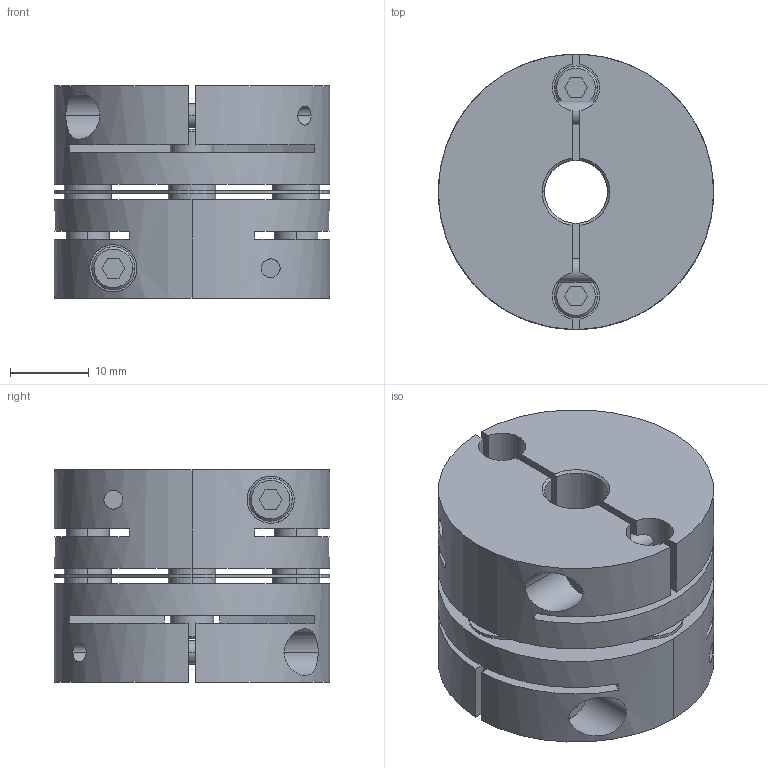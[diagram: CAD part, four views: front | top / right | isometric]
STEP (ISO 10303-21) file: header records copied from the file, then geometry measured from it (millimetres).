
FILE_DESCRIPTION((''),'2;1');
FILE_NAME('LAS-35C-8×9.525.stp','2015-10-14T15:27:03',(''),(''),'AutoCAD STEP 2000i','AutoCAD 2000i',', , ');
FILE_SCHEMA(('CONFIG_CONTROL_DESIGN'));
Length unit declared in the file: millimetre
Products named in the file (5): LAS-35C-8×8; 忣兜1; LA-3502-D08-1; LA-3502-D08; LAS35-ITA
Assembly tree (4 placements, depth 2):
  LAS-35C-8×8
    忣兜1
    LA-3502-D08-1
    LA-3502-D08
    LAS35-ITA
Bounding box: 35 x 35 x 27 mm (x, y, z)
Volume: 20216.7 mm3; surface area: 12158.4 mm2
Topology: 1 solids, 1 shells, 236 faces, 624 edges, 408 vertices
Faces by surface type: plane 112, cylinder 96, cone 28
Entity records: 8143 total; most frequent: CARTESIAN_POINT 1949, DIRECTION 1302, ORIENTED_EDGE 1248, EDGE_CURVE 624, AXIS2_PLACEMENT_3D 477, VERTEX_POINT 408, VECTOR 348, LINE 348
